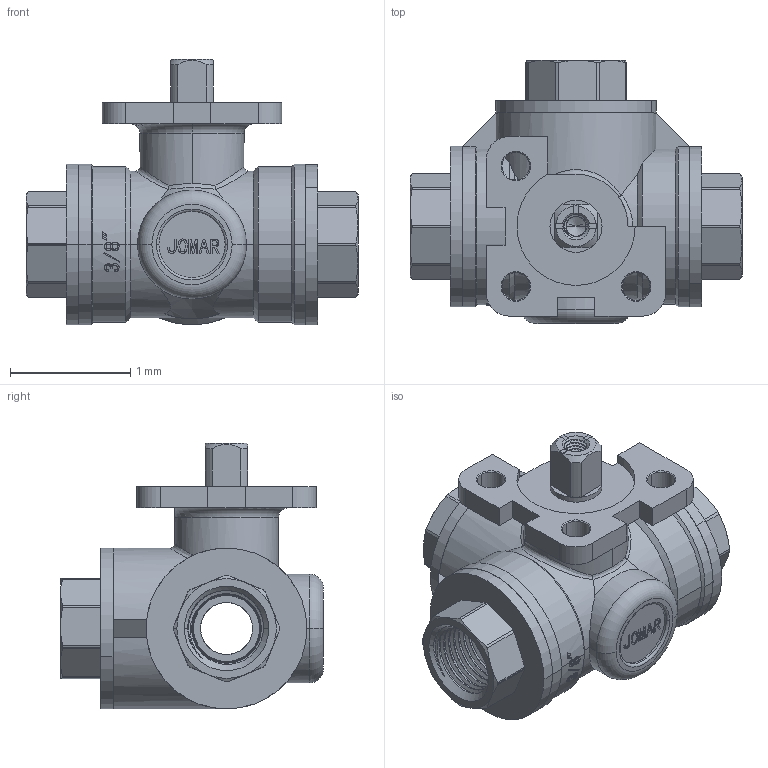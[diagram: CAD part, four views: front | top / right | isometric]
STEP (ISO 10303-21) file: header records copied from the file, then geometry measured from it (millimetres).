
FILE_DESCRIPTION(('Open CASCADE Model'),'2;1');
FILE_NAME('Open CASCADE Shape Model','2023-01-24T15:56:46',('Author'),( 'Open CASCADE'),'Open CASCADE STEP processor 7.3','Open CASCADE 7.3' ,'Unknown');
FILE_SCHEMA(('AUTOMOTIVE_DESIGN { 1 0 10303 214 1 1 1 1 }'));
Length unit declared in the file: millimetre
Products named in the file (18): Open CASCADE STEP translator 7.3 1; Open CASCADE STEP translator 7.3 1.1; Open CASCADE STEP translator 7.3 1.2; Open CASCADE STEP translator 7.3 1.3; Open CASCADE STEP translator 7.3 1.4; Open CASCADE STEP translator 7.3 1.5; Open CASCADE STEP translator 7.3 1.6; Open CASCADE STEP translator 7.3 1.7; Open CASCADE STEP translator 7.3 1.8; Open CASCADE STEP translator 7.3 1.9; Open CASCADE STEP translator 7.3 1.10; Open CASCADE STEP translator 7.3 1.11; Open CASCADE STEP translator 7.3 1.12; Open CASCADE STEP translator 7.3 1.13; Open CASCADE STEP translator 7.3 1.14; Open CASCADE STEP translator 7.3 1.15; Open CASCADE STEP translator 7.3 1.16; Open CASCADE STEP translator 7.3 1.17
Assembly tree (17 placements, depth 2):
  Open CASCADE STEP translator 7.3 1
    Open CASCADE STEP translator 7.3 1.1
    Open CASCADE STEP translator 7.3 1.2
    Open CASCADE STEP translator 7.3 1.3
    Open CASCADE STEP translator 7.3 1.4
    Open CASCADE STEP translator 7.3 1.5
    Open CASCADE STEP translator 7.3 1.6
    Open CASCADE STEP translator 7.3 1.7
    Open CASCADE STEP translator 7.3 1.8
    Open CASCADE STEP translator 7.3 1.9
    Open CASCADE STEP translator 7.3 1.10
    Open CASCADE STEP translator 7.3 1.11
    Open CASCADE STEP translator 7.3 1.12
    Open CASCADE STEP translator 7.3 1.13
    Open CASCADE STEP translator 7.3 1.14
    Open CASCADE STEP translator 7.3 1.15
    Open CASCADE STEP translator 7.3 1.16
    Open CASCADE STEP translator 7.3 1.17
Bounding box: 2.77 x 2.19 x 2.21 mm (x, y, z)
Volume: 3.5 mm3; surface area: 65.4 mm2
Topology: 17 solids, 17 shells, 822 faces, 2092 edges, 1338 vertices
Faces by surface type: cylinder 273, plane 207, cone 150, bspline 124, torus 54, sphere 10, revolution 4
Entity records: 120582 total; most frequent: CARTESIAN_POINT 82395, DIRECTION 5999, ORIENTED_EDGE 4174, PCURVE 4174, DEFINITIONAL_REPRESENTATION 4174, LINE 2949, VECTOR 2949, EDGE_CURVE 2087
